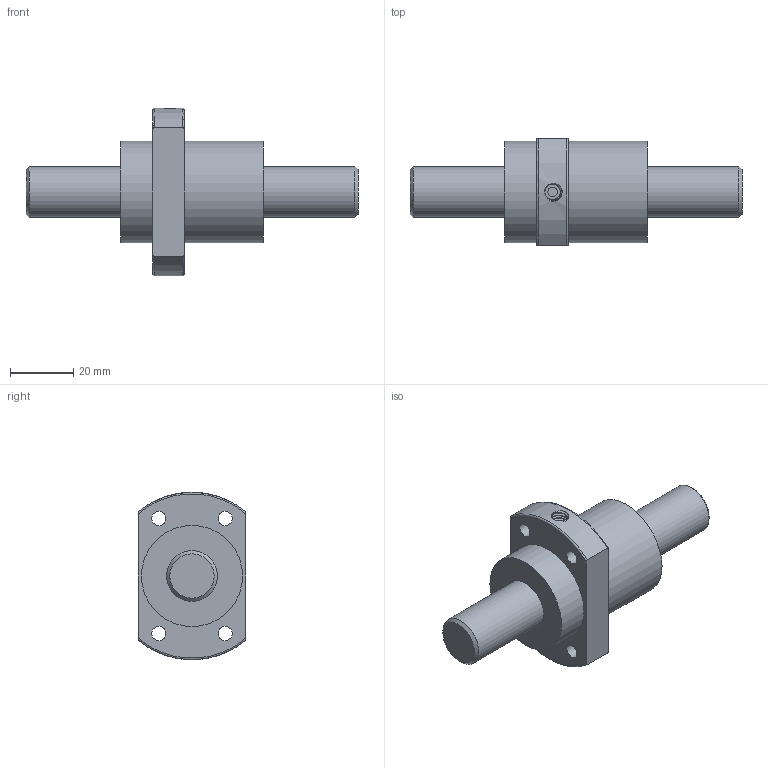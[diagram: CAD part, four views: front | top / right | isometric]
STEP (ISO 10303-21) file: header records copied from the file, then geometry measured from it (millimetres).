
FILE_DESCRIPTION (( 'STEP AP203' ), '1' );
FILE_NAME ('SFY01616-3.6.STEP', '2023-08-16T03:37:15', ( '' ), ( '' ), 'SwSTEP 2.0', 'SolidWorks 2022', '' );
FILE_SCHEMA (( 'CONFIG_CONTROL_DESIGN' ));
Length unit declared in the file: millimetre
Products named in the file (1): SFY01616-3.6
Bounding box: 105 x 34 x 53 mm (x, y, z)
Volume: 55959.8 mm3; surface area: 12081.6 mm2
Topology: 1 solids, 1 shells, 31 faces, 76 edges, 53 vertices
Faces by surface type: cylinder 13, plane 10, torus 4, bspline 2, cone 2
Full cylindrical faces by diameter (mm): 3 x1, 4.5 x4, 16 x2, 32 x2
Entity records: 2941 total; most frequent: CARTESIAN_POINT 2228, DIRECTION 128, ORIENTED_EDGE 112, AXIS2_PLACEMENT_3D 60, EDGE_CURVE 56, EDGE_LOOP 56, VERTEX_POINT 44, FACE_OUTER_BOUND 40
